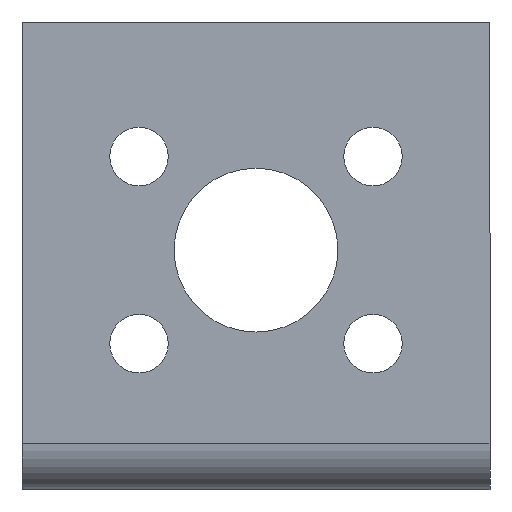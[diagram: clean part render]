
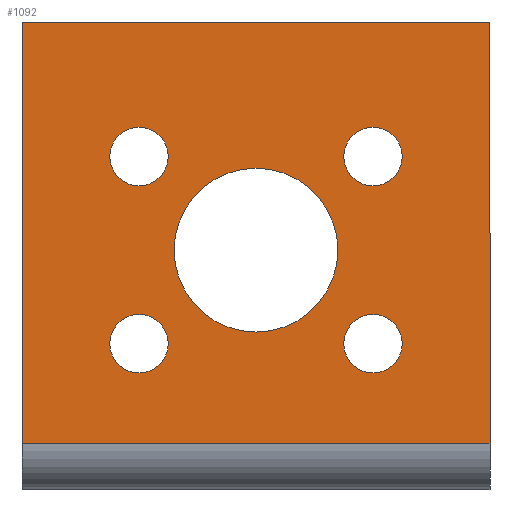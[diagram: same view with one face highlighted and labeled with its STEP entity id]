
A CAD part, front view. The second image highlights one B-rep face of the part: STEP entity #1092.
In plain terms, the highlighted planar face has unit normal (0, -1, 0).
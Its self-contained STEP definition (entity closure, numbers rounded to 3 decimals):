
#3 = DIRECTION ( 'NONE',  ( 0., 1., 0. ) ) ;
#54 = LINE ( 'NONE', #280, #802 ) ;
#71 = CARTESIAN_POINT ( 'NONE',  ( -20., -100., 20. ) ) ;
#83 = PLANE ( 'NONE',  #1693 ) ;
#92 = CARTESIAN_POINT ( 'NONE',  ( -20., -100., -20. ) ) ;
#137 = DIRECTION ( 'NONE',  ( 0., 0., 1. ) ) ;
#163 = CIRCLE ( 'NONE', #1310, 2.5 ) ;
#173 = CARTESIAN_POINT ( 'NONE',  ( -10., -100., -7.5 ) ) ;
#183 = AXIS2_PLACEMENT_3D ( 'NONE', #1735, #1029, #885 ) ;
#198 = AXIS2_PLACEMENT_3D ( 'NONE', #368, #1495, #1500 ) ;
#211 = CIRCLE ( 'NONE', #658, 7. ) ;
#215 = VERTEX_POINT ( 'NONE', #1267 ) ;
#220 = CARTESIAN_POINT ( 'NONE',  ( 0., -100., 0.5 ) ) ;
#268 = DIRECTION ( 'NONE',  ( 1., 0., 0. ) ) ;
#272 = LINE ( 'NONE', #620, #738 ) ;
#280 = CARTESIAN_POINT ( 'NONE',  ( -20., -100., 0. ) ) ;
#297 = EDGE_CURVE ( 'NONE', #567, #1474, #835, .T. ) ;
#332 = EDGE_LOOP ( 'NONE', ( #1616, #626 ) ) ;
#368 = CARTESIAN_POINT ( 'NONE',  ( -10., -100., -7.5 ) ) ;
#426 = VERTEX_POINT ( 'NONE', #757 ) ;
#436 = CARTESIAN_POINT ( 'NONE',  ( 10., -100., 8.5 ) ) ;
#441 = CARTESIAN_POINT ( 'NONE',  ( 20., -100., 20. ) ) ;
#467 = DIRECTION ( 'NONE',  ( 0., 0., 1. ) ) ;
#468 = AXIS2_PLACEMENT_3D ( 'NONE', #1171, #1038, #1754 ) ;
#472 = ORIENTED_EDGE ( 'NONE', *, *, #1263, .T. ) ;
#476 = FACE_BOUND ( 'NONE', #1459, .T. ) ;
#478 = CARTESIAN_POINT ( 'NONE',  ( 10., -100., -10. ) ) ;
#488 = ORIENTED_EDGE ( 'NONE', *, *, #1740, .T. ) ;
#514 = ORIENTED_EDGE ( 'NONE', *, *, #702, .T. ) ;
#515 = CARTESIAN_POINT ( 'NONE',  ( -10., -100., 8.5 ) ) ;
#551 = CARTESIAN_POINT ( 'NONE',  ( 0., -100., 7.5 ) ) ;
#558 = VERTEX_POINT ( 'NONE', #71 ) ;
#567 = VERTEX_POINT ( 'NONE', #1226 ) ;
#593 = AXIS2_PLACEMENT_3D ( 'NONE', #220, #1480, #1786 ) ;
#611 = CIRCLE ( 'NONE', #198, 2.5 ) ;
#620 = CARTESIAN_POINT ( 'NONE',  ( 20., -100., 0. ) ) ;
#626 = ORIENTED_EDGE ( 'NONE', *, *, #1840, .T. ) ;
#628 = DIRECTION ( 'NONE',  ( 0., 0., -1. ) ) ;
#656 = CARTESIAN_POINT ( 'NONE',  ( -10., -100., 8.5 ) ) ;
#657 = CARTESIAN_POINT ( 'NONE',  ( 0., -100., -6.5 ) ) ;
#658 = AXIS2_PLACEMENT_3D ( 'NONE', #995, #3, #1007 ) ;
#666 = EDGE_CURVE ( 'NONE', #1392, #1318, #211, .T. ) ;
#680 = VERTEX_POINT ( 'NONE', #441 ) ;
#687 = EDGE_LOOP ( 'NONE', ( #514, #1800 ) ) ;
#694 = ORIENTED_EDGE ( 'NONE', *, *, #1716, .T. ) ;
#702 = EDGE_CURVE ( 'NONE', #1474, #567, #163, .T. ) ;
#718 = VECTOR ( 'NONE', #897, 1000. ) ;
#734 = VERTEX_POINT ( 'NONE', #987 ) ;
#738 = VECTOR ( 'NONE', #628, 1000. ) ;
#756 = FACE_BOUND ( 'NONE', #1004, .T. ) ;
#757 = CARTESIAN_POINT ( 'NONE',  ( -10., -100., -10. ) ) ;
#759 = AXIS2_PLACEMENT_3D ( 'NONE', #656, #1054, #1651 ) ;
#802 = VECTOR ( 'NONE', #1677, 1000. ) ;
#804 = VERTEX_POINT ( 'NONE', #478 ) ;
#818 = VERTEX_POINT ( 'NONE', #1030 ) ;
#835 = CIRCLE ( 'NONE', #1400, 2.5 ) ;
#847 = CARTESIAN_POINT ( 'NONE',  ( 10., -100., 11. ) ) ;
#862 = CIRCLE ( 'NONE', #183, 2.5 ) ;
#881 = CARTESIAN_POINT ( 'NONE',  ( 10., -100., 8.5 ) ) ;
#885 = DIRECTION ( 'NONE',  ( 0., 0., 1. ) ) ;
#887 = ORIENTED_EDGE ( 'NONE', *, *, #666, .T. ) ;
#897 = DIRECTION ( 'NONE',  ( -1., 0., 0. ) ) ;
#918 = EDGE_CURVE ( 'NONE', #680, #558, #1089, .T. ) ;
#921 = EDGE_CURVE ( 'NONE', #680, #1017, #272, .T. ) ;
#960 = CIRCLE ( 'NONE', #1395, 2.5 ) ;
#961 = CARTESIAN_POINT ( 'NONE',  ( -10., -100., -5. ) ) ;
#987 = CARTESIAN_POINT ( 'NONE',  ( 10., -100., -5. ) ) ;
#995 = CARTESIAN_POINT ( 'NONE',  ( 0., -100., 0.5 ) ) ;
#1004 = EDGE_LOOP ( 'NONE', ( #887, #472 ) ) ;
#1007 = DIRECTION ( 'NONE',  ( 0., 0., 1. ) ) ;
#1013 = EDGE_CURVE ( 'NONE', #1084, #426, #611, .T. ) ;
#1017 = VERTEX_POINT ( 'NONE', #1782 ) ;
#1029 = DIRECTION ( 'NONE',  ( 0., 1., 0. ) ) ;
#1030 = CARTESIAN_POINT ( 'NONE',  ( -10., -100., 11. ) ) ;
#1038 = DIRECTION ( 'NONE',  ( 0., 1., 0. ) ) ;
#1042 = ORIENTED_EDGE ( 'NONE', *, *, #921, .F. ) ;
#1044 = LINE ( 'NONE', #1249, #1758 ) ;
#1046 = EDGE_CURVE ( 'NONE', #818, #215, #1508, .T. ) ;
#1050 = CARTESIAN_POINT ( 'NONE',  ( -20., -100., 20. ) ) ;
#1054 = DIRECTION ( 'NONE',  ( 0., 1., 0. ) ) ;
#1069 = FACE_OUTER_BOUND ( 'NONE', #1284, .T. ) ;
#1084 = VERTEX_POINT ( 'NONE', #961 ) ;
#1089 = LINE ( 'NONE', #1050, #718 ) ;
#1090 = DIRECTION ( 'NONE',  ( 0., 1., 0. ) ) ;
#1092 = ADVANCED_FACE ( 'NONE', ( #756, #476, #1435, #1266, #1826, #1069 ), #83, .T. ) ;
#1119 = CARTESIAN_POINT ( 'NONE',  ( -20., -100., -16. ) ) ;
#1168 = DIRECTION ( 'NONE',  ( 0., 0., 1. ) ) ;
#1169 = EDGE_CURVE ( 'NONE', #1491, #1017, #1044, .T. ) ;
#1171 = CARTESIAN_POINT ( 'NONE',  ( 10., -100., -7.5 ) ) ;
#1174 = ORIENTED_EDGE ( 'NONE', *, *, #1013, .T. ) ;
#1226 = CARTESIAN_POINT ( 'NONE',  ( 10., -100., 6. ) ) ;
#1249 = CARTESIAN_POINT ( 'NONE',  ( -20., -100., -16. ) ) ;
#1263 = EDGE_CURVE ( 'NONE', #1318, #1392, #1285, .T. ) ;
#1266 = FACE_BOUND ( 'NONE', #687, .T. ) ;
#1267 = CARTESIAN_POINT ( 'NONE',  ( -10., -100., 6. ) ) ;
#1284 = EDGE_LOOP ( 'NONE', ( #1429, #1352, #1418, #1042 ) ) ;
#1285 = CIRCLE ( 'NONE', #593, 7. ) ;
#1288 = EDGE_LOOP ( 'NONE', ( #488, #694 ) ) ;
#1310 = AXIS2_PLACEMENT_3D ( 'NONE', #436, #1849, #137 ) ;
#1318 = VERTEX_POINT ( 'NONE', #657 ) ;
#1321 = CIRCLE ( 'NONE', #759, 2.5 ) ;
#1352 = ORIENTED_EDGE ( 'NONE', *, *, #1387, .T. ) ;
#1387 = EDGE_CURVE ( 'NONE', #558, #1491, #54, .T. ) ;
#1392 = VERTEX_POINT ( 'NONE', #551 ) ;
#1395 = AXIS2_PLACEMENT_3D ( 'NONE', #173, #1741, #467 ) ;
#1400 = AXIS2_PLACEMENT_3D ( 'NONE', #881, #1576, #1168 ) ;
#1418 = ORIENTED_EDGE ( 'NONE', *, *, #1169, .T. ) ;
#1429 = ORIENTED_EDGE ( 'NONE', *, *, #918, .T. ) ;
#1435 = FACE_BOUND ( 'NONE', #1288, .T. ) ;
#1459 = EDGE_LOOP ( 'NONE', ( #1174, #1815 ) ) ;
#1474 = VERTEX_POINT ( 'NONE', #847 ) ;
#1480 = DIRECTION ( 'NONE',  ( 0., 1., 0. ) ) ;
#1491 = VERTEX_POINT ( 'NONE', #1119 ) ;
#1495 = DIRECTION ( 'NONE',  ( 0., 1., 0. ) ) ;
#1500 = DIRECTION ( 'NONE',  ( 0., 0., 1. ) ) ;
#1508 = CIRCLE ( 'NONE', #1846, 2.5 ) ;
#1509 = DIRECTION ( 'NONE',  ( 0., 0., 1. ) ) ;
#1512 = DIRECTION ( 'NONE',  ( 0., -1., 0. ) ) ;
#1567 = CIRCLE ( 'NONE', #468, 2.5 ) ;
#1576 = DIRECTION ( 'NONE',  ( 0., 1., 0. ) ) ;
#1616 = ORIENTED_EDGE ( 'NONE', *, *, #1046, .T. ) ;
#1651 = DIRECTION ( 'NONE',  ( 0., 0., 1. ) ) ;
#1652 = EDGE_CURVE ( 'NONE', #426, #1084, #960, .T. ) ;
#1677 = DIRECTION ( 'NONE',  ( 0., 0., -1. ) ) ;
#1693 = AXIS2_PLACEMENT_3D ( 'NONE', #92, #1512, #1807 ) ;
#1716 = EDGE_CURVE ( 'NONE', #804, #734, #862, .T. ) ;
#1735 = CARTESIAN_POINT ( 'NONE',  ( 10., -100., -7.5 ) ) ;
#1740 = EDGE_CURVE ( 'NONE', #734, #804, #1567, .T. ) ;
#1741 = DIRECTION ( 'NONE',  ( 0., 1., 0. ) ) ;
#1754 = DIRECTION ( 'NONE',  ( 0., 0., 1. ) ) ;
#1758 = VECTOR ( 'NONE', #268, 1000. ) ;
#1782 = CARTESIAN_POINT ( 'NONE',  ( 20., -100., -16. ) ) ;
#1786 = DIRECTION ( 'NONE',  ( 0., 0., 1. ) ) ;
#1800 = ORIENTED_EDGE ( 'NONE', *, *, #297, .T. ) ;
#1807 = DIRECTION ( 'NONE',  ( 0., 0., -1. ) ) ;
#1815 = ORIENTED_EDGE ( 'NONE', *, *, #1652, .T. ) ;
#1826 = FACE_BOUND ( 'NONE', #332, .T. ) ;
#1840 = EDGE_CURVE ( 'NONE', #215, #818, #1321, .T. ) ;
#1846 = AXIS2_PLACEMENT_3D ( 'NONE', #515, #1090, #1509 ) ;
#1849 = DIRECTION ( 'NONE',  ( 0., 1., 0. ) ) ;
